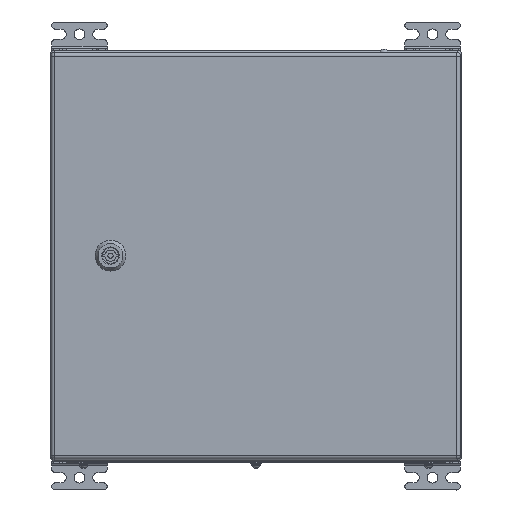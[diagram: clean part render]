
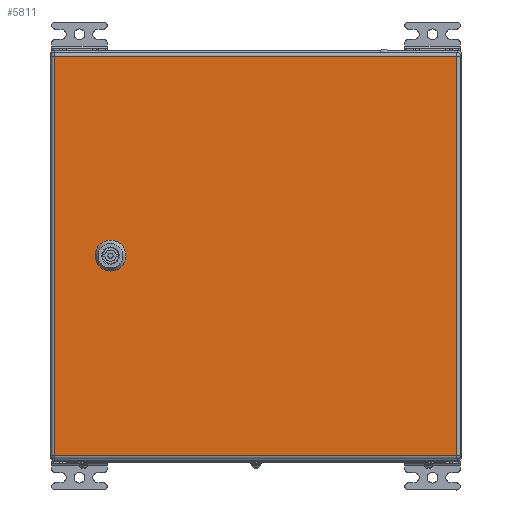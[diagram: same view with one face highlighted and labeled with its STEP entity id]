
A CAD part, top view. The second image highlights one B-rep face of the part: STEP entity #5811.
In plain terms, the highlighted planar face has unit normal (0, 0, 1).
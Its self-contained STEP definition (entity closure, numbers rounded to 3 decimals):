
#5811=ADVANCED_FACE('',(#13749,#13751),#13753,.T.);
#13749=FACE_BOUND('',#13750,.T.);
#13750=EDGE_LOOP('',(#36180,#36181,#36182,#36183));
#13751=FACE_BOUND('',#13752,.T.);
#13752=EDGE_LOOP('',(#36184,#36185,#36186,#36187,#36188,#36189,#36190,#36191));
#13753=PLANE('',#13754);
#13754=AXIS2_PLACEMENT_3D('',#13755,#13756,#13757);
#13755=CARTESIAN_POINT('',(0.,0.,1.5));
#13756=DIRECTION('',(0.,0.,1.));
#13757=DIRECTION('',(1.,0.,0.));
#36180=ORIENTED_EDGE('',*,*,#40476,.T.);
#36181=ORIENTED_EDGE('',*,*,#40477,.T.);
#36182=ORIENTED_EDGE('',*,*,#40478,.T.);
#36183=ORIENTED_EDGE('',*,*,#40479,.T.);
#36184=ORIENTED_EDGE('',*,*,#40438,.T.);
#36185=ORIENTED_EDGE('',*,*,#40453,.T.);
#36186=ORIENTED_EDGE('',*,*,#40451,.T.);
#36187=ORIENTED_EDGE('',*,*,#40449,.T.);
#36188=ORIENTED_EDGE('',*,*,#40447,.T.);
#36189=ORIENTED_EDGE('',*,*,#40445,.T.);
#36190=ORIENTED_EDGE('',*,*,#40443,.T.);
#36191=ORIENTED_EDGE('',*,*,#40441,.T.);
#40438=EDGE_CURVE('',#43948,#43949,#43950,.F.);
#40441=EDGE_CURVE('',#43953,#43948,#43954,.F.);
#40443=EDGE_CURVE('',#43956,#43953,#43957,.F.);
#40445=EDGE_CURVE('',#43959,#43956,#43960,.F.);
#40447=EDGE_CURVE('',#43962,#43959,#43963,.F.);
#40449=EDGE_CURVE('',#43965,#43962,#43966,.F.);
#40451=EDGE_CURVE('',#43968,#43965,#43969,.F.);
#40453=EDGE_CURVE('',#43949,#43968,#43971,.F.);
#40476=EDGE_CURVE('',#44008,#44009,#44010,.T.);
#40477=EDGE_CURVE('',#44009,#44011,#44012,.T.);
#40478=EDGE_CURVE('',#44011,#44013,#44014,.T.);
#40479=EDGE_CURVE('',#44013,#44008,#44015,.T.);
#43948=VERTEX_POINT('',#53348);
#43949=VERTEX_POINT('',#53349);
#43950=LINE('',#53350,#53351);
#43953=VERTEX_POINT('',#53359);
#43954=CIRCLE('',#53360,11.25);
#43956=VERTEX_POINT('',#53367);
#43957=LINE('',#53368,#53369);
#43959=VERTEX_POINT('',#53374);
#43960=CIRCLE('',#53375,11.25);
#43962=VERTEX_POINT('',#53382);
#43963=LINE('',#53383,#53384);
#43965=VERTEX_POINT('',#53389);
#43966=CIRCLE('',#53390,11.25);
#43968=VERTEX_POINT('',#53397);
#43969=LINE('',#53398,#53399);
#43971=CIRCLE('',#53404,11.25);
#44008=VERTEX_POINT('',#53494);
#44009=VERTEX_POINT('',#53495);
#44010=LINE('',#53496,#53497);
#44011=VERTEX_POINT('',#53499);
#44012=LINE('',#53500,#53501);
#44013=VERTEX_POINT('',#53503);
#44014=LINE('',#53504,#53505);
#44015=LINE('',#53507,#53508);
#53348=CARTESIAN_POINT('',(-189.545,-64.6,1.5));
#53349=CARTESIAN_POINT('',(-199.455,-64.6,1.5));
#53350=CARTESIAN_POINT('',(-199.455,-64.6,1.5));
#53351=VECTOR('',#53352,1.);
#53352=DIRECTION('',(1.,0.,0.));
#53359=CARTESIAN_POINT('',(-184.4,-59.455,1.5));
#53360=AXIS2_PLACEMENT_3D('',#53361,#53362,#53363);
#53361=CARTESIAN_POINT('',(-194.5,-54.5,1.5));
#53362=DIRECTION('',(0.,0.,1.));
#53363=DIRECTION('',(0.44,-0.898,0.));
#53367=CARTESIAN_POINT('',(-184.4,-49.545,1.5));
#53368=CARTESIAN_POINT('',(-184.4,-59.455,1.5));
#53369=VECTOR('',#53370,1.);
#53370=DIRECTION('',(0.,1.,0.));
#53374=CARTESIAN_POINT('',(-189.545,-44.4,1.5));
#53375=AXIS2_PLACEMENT_3D('',#53376,#53377,#53378);
#53376=CARTESIAN_POINT('',(-194.5,-54.5,1.5));
#53377=DIRECTION('',(0.,0.,1.));
#53378=DIRECTION('',(0.898,0.44,0.));
#53382=CARTESIAN_POINT('',(-199.455,-44.4,1.5));
#53383=CARTESIAN_POINT('',(-189.545,-44.4,1.5));
#53384=VECTOR('',#53385,1.);
#53385=DIRECTION('',(-1.,0.,0.));
#53389=CARTESIAN_POINT('',(-204.6,-49.545,1.5));
#53390=AXIS2_PLACEMENT_3D('',#53391,#53392,#53393);
#53391=CARTESIAN_POINT('',(-194.5,-54.5,1.5));
#53392=DIRECTION('',(0.,0.,1.));
#53393=DIRECTION('',(-0.44,0.898,0.));
#53397=CARTESIAN_POINT('',(-204.6,-59.455,1.5));
#53398=CARTESIAN_POINT('',(-204.6,-49.545,1.5));
#53399=VECTOR('',#53400,1.);
#53400=DIRECTION('',(0.,-1.,0.));
#53404=AXIS2_PLACEMENT_3D('',#53405,#53406,#53407);
#53405=CARTESIAN_POINT('',(-194.5,-54.5,1.5));
#53406=DIRECTION('',(0.,0.,1.));
#53407=DIRECTION('',(-0.898,-0.44,0.));
#53494=CARTESIAN_POINT('',(-389.,0.,1.5));
#53495=CARTESIAN_POINT('',(-389.,-392.,1.5));
#53496=CARTESIAN_POINT('',(-389.,0.,1.5));
#53497=VECTOR('',#53498,1.);
#53498=DIRECTION('',(0.,-1.,0.));
#53499=CARTESIAN_POINT('',(0.,-392.,1.5));
#53500=CARTESIAN_POINT('',(-389.,-392.,1.5));
#53501=VECTOR('',#53502,1.);
#53502=DIRECTION('',(1.,0.,0.));
#53503=CARTESIAN_POINT('',(0.,0.,1.5));
#53504=CARTESIAN_POINT('',(0.,-392.,1.5));
#53505=VECTOR('',#53506,1.);
#53506=DIRECTION('',(0.,1.,0.));
#53507=CARTESIAN_POINT('',(0.,0.,1.5));
#53508=VECTOR('',#53509,1.);
#53509=DIRECTION('',(-1.,0.,0.));
